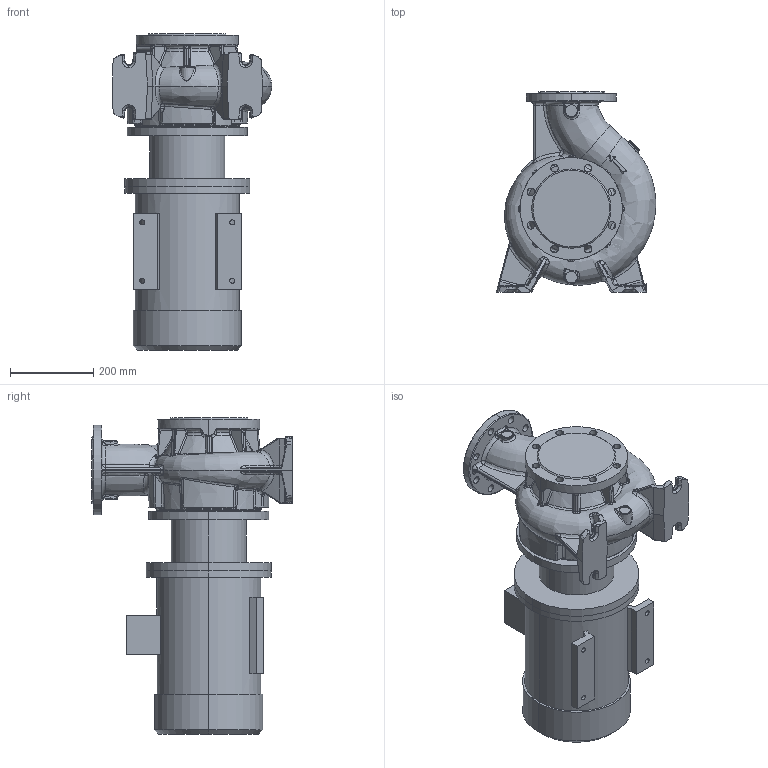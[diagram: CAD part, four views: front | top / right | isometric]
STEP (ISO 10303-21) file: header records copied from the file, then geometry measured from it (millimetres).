
FILE_DESCRIPTION (( 'STEP AP214' ), '1' );
FILE_NAME ('KRM 125-100-160-4-5,5.STEP', '2026-04-22T08:33:30', ( '' ), ( '' ), 'SwSTEP 2.0', 'SolidWorks 2016', '' );
FILE_SCHEMA (( 'AUTOMOTIVE_DESIGN' ));
Length unit declared in the file: millimetre
Products named in the file (1): KRM 125-100-160-4-5,5
Bounding box: 382.59 x 480 x 757.8 mm (x, y, z)
Volume: 44312356.8 mm3; surface area: 1661275.7 mm2
Topology: 4 solids, 4 shells, 1128 faces, 2698 edges, 1567 vertices
Faces by surface type: bspline 476, cylinder 267, plane 179, torus 101, cone 58, sphere 47
Entity records: 88279 total; most frequent: CARTESIAN_POINT 53351, ORIENTED_EDGE 5332, DIRECTION 3964, EDGE_CURVE 2666, AXIS2_PLACEMENT_3D 1711, VERTEX_POINT 1567, EDGE_LOOP 1189, UNCERTAINTY_MEASURE_WITH_UNIT 1134
